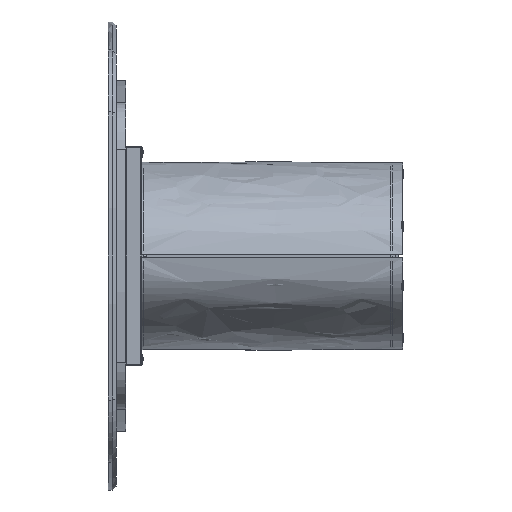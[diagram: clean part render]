
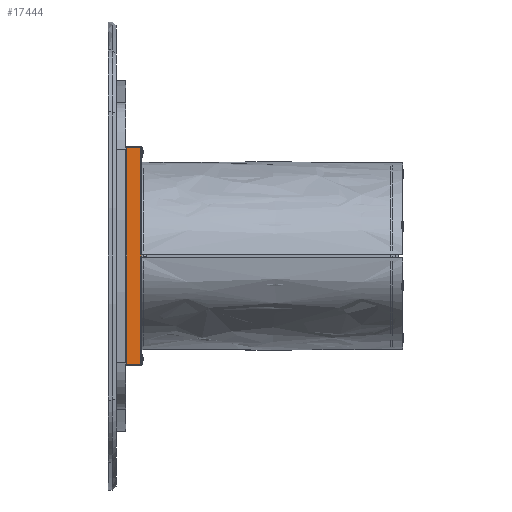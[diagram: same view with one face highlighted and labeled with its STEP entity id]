
A CAD part, left-side view. The second image highlights one B-rep face of the part: STEP entity #17444.
In plain terms, the highlighted planar face has unit normal (-1, 0, 0).
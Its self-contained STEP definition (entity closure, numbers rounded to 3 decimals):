
#2115 = CARTESIAN_POINT ( 'NONE',  ( -800., 2., 280. ) ) ;
#3156 = ORIENTED_EDGE ( 'NONE', *, *, #11806, .T. ) ;
#3385 = VECTOR ( 'NONE', #6553, 1000. ) ;
#4560 = LINE ( 'NONE', #2115, #3385 ) ;
#4994 = VECTOR ( 'NONE', #19010, 1000. ) ;
#5154 = CARTESIAN_POINT ( 'NONE',  ( -800., 40., 280. ) ) ;
#6313 = VERTEX_POINT ( 'NONE', #8336 ) ;
#6553 = DIRECTION ( 'NONE',  ( 0., 0., 1. ) ) ;
#6644 = EDGE_CURVE ( 'NONE', #6313, #22447, #4560, .T. ) ;
#6886 = VERTEX_POINT ( 'NONE', #22896 ) ;
#8336 = CARTESIAN_POINT ( 'NONE',  ( -800., 2., -278. ) ) ;
#8640 = VECTOR ( 'NONE', #28786, 1000. ) ;
#9544 = FACE_OUTER_BOUND ( 'NONE', #18144, .T. ) ;
#10762 = DIRECTION ( 'NONE',  ( 0., -1., 0. ) ) ;
#11386 = EDGE_CURVE ( 'NONE', #22447, #18039, #23916, .T. ) ;
#11806 = EDGE_CURVE ( 'NONE', #18039, #6886, #19126, .T. ) ;
#12007 = PLANE ( 'NONE',  #27096 ) ;
#12665 = DIRECTION ( 'NONE',  ( 0., 0., -1. ) ) ;
#15561 = ORIENTED_EDGE ( 'NONE', *, *, #11386, .T. ) ;
#17444 = ADVANCED_FACE ( 'NONE', ( #9544 ), #12007, .F. ) ;
#18039 = VERTEX_POINT ( 'NONE', #30737 ) ;
#18144 = EDGE_LOOP ( 'NONE', ( #29461, #15561, #3156, #27742 ) ) ;
#18615 = CARTESIAN_POINT ( 'NONE',  ( -800., 40., -278. ) ) ;
#19010 = DIRECTION ( 'NONE',  ( 0., 1., 0. ) ) ;
#19126 = LINE ( 'NONE', #31230, #8640 ) ;
#19508 = DIRECTION ( 'NONE',  ( 1., 0., 0. ) ) ;
#21462 = CARTESIAN_POINT ( 'NONE',  ( -800., 40., 278. ) ) ;
#22447 = VERTEX_POINT ( 'NONE', #27762 ) ;
#22896 = CARTESIAN_POINT ( 'NONE',  ( -800., 38., -278. ) ) ;
#23916 = LINE ( 'NONE', #21462, #4994 ) ;
#25637 = LINE ( 'NONE', #18615, #31804 ) ;
#27096 = AXIS2_PLACEMENT_3D ( 'NONE', #5154, #19508, #12665 ) ;
#27742 = ORIENTED_EDGE ( 'NONE', *, *, #31613, .T. ) ;
#27762 = CARTESIAN_POINT ( 'NONE',  ( -800., 2., 278. ) ) ;
#28786 = DIRECTION ( 'NONE',  ( 0., 0., -1. ) ) ;
#29461 = ORIENTED_EDGE ( 'NONE', *, *, #6644, .T. ) ;
#30737 = CARTESIAN_POINT ( 'NONE',  ( -800., 38., 278. ) ) ;
#31230 = CARTESIAN_POINT ( 'NONE',  ( -800., 38., -280. ) ) ;
#31613 = EDGE_CURVE ( 'NONE', #6886, #6313, #25637, .T. ) ;
#31804 = VECTOR ( 'NONE', #10762, 1000. ) ;
